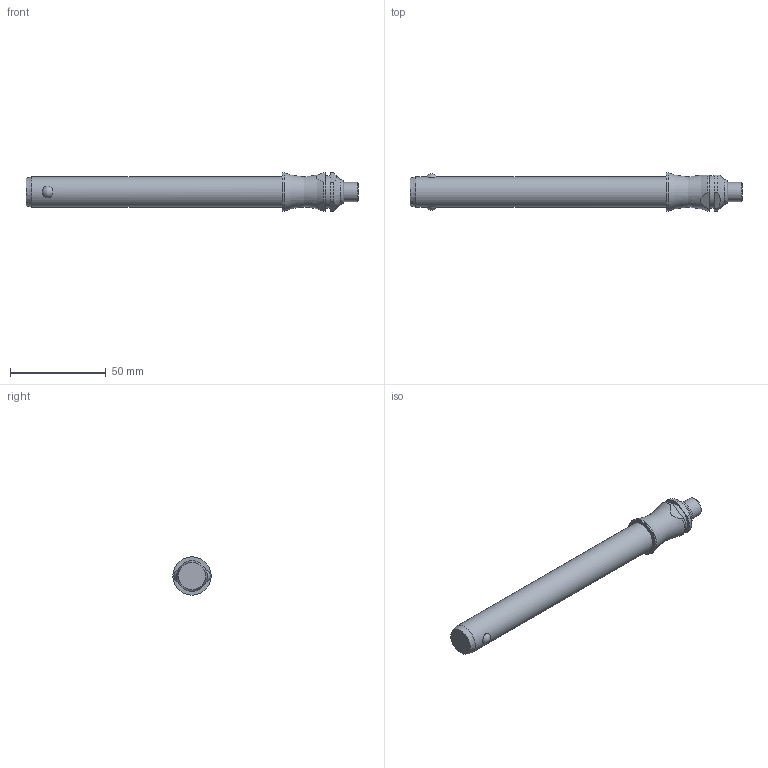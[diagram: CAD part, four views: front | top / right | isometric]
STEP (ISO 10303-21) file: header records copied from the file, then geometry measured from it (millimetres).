
FILE_DESCRIPTION( ( 'STEP AP203' ), '1' );
FILE_NAME( 'C:/Temp/Ganter_Step_05_03_2020/data/3_1/gn113_3/Stainless Steel-Ball lock pin GN 113.3-16-120 (deactivated).stp', '2020-03-12T08:18:59', ( 'License CC BY-ND 4.0' ), ( 'CADENAS' ), ' ', 'PARTsolutions', ' ' );
FILE_SCHEMA( ( 'CONFIG_CONTROL_DESIGN' ) );
Length unit declared in the file: millimetre
Products named in the file (1): _Stainless Steel-Ball lock pin GN 113.3-16-120 (deactivated)
Bounding box: 173.5 x 20 x 20 mm (x, y, z)
Volume: 34891.5 mm3; surface area: 9295.6 mm2
Topology: 1 solids, 1 shells, 28 faces, 60 edges, 39 vertices
Faces by surface type: plane 11, cylinder 10, cone 3, torus 2, sphere 2
Full cylindrical faces by diameter (mm): 10 x1, 16 x1, 17 x1, 20 x1
Entity records: 966 total; most frequent: CARTESIAN_POINT 350, DIRECTION 122, ORIENTED_EDGE 98, AXIS2_PLACEMENT_3D 52, EDGE_CURVE 49, EDGE_LOOP 42, VERTEX_POINT 38, FACE_OUTER_BOUND 34
